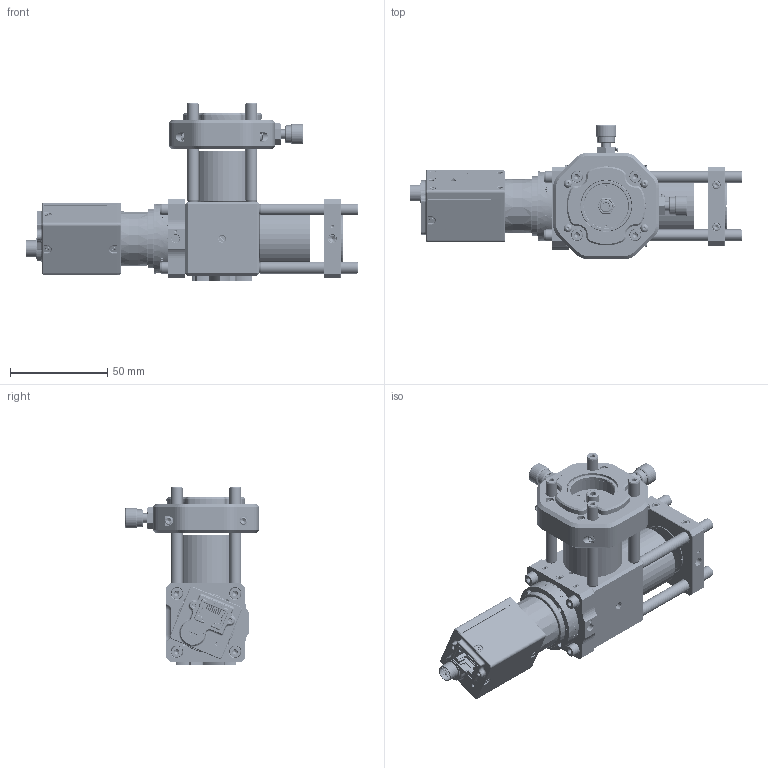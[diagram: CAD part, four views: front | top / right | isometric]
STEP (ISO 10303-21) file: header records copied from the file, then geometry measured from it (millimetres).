
FILE_DESCRIPTION (( 'STEP AP214' ), '1' );
FILE_NAME ('2023-27 - EMISSION TELESCOPE.STEP', '2024-11-19T10:14:12', ( '' ), ( '' ), 'SwSTEP 2.0', 'SolidWorks 2025', '' );
FILE_SCHEMA (( 'AUTOMOTIVE_DESIGN' ));
Length unit declared in the file: millimetre
Products named in the file (15): CXY1A; mer2_poe_user_a1.0.3.step; ER05; AC254-100-A; SM1CP2; SM1A39; CP33_M; CRM1_M; CCM1-BS013_M; ER2; SM1SMA; SM1L10; 2023-27 - EMISSION TELESCOPE; SM1RR; 2023-29 - 15mm pinhole
Assembly tree (25 placements, depth 2):
  2023-27 - EMISSION TELESCOPE
    CCM1-BS013_M
    CRM1_M
    SM1A39
    mer2_poe_user_a1.0.3.step
    ER05  x4
    SM1SMA
    CXY1A
    ER2  x8
    SM1L10  x2
    SM1CP2
    2023-29 - 15mm pinhole
    CP33_M
    SM1RR
    AC254-100-A
Bounding box: 170.64 x 68.96 x 91.69 mm (x, y, z)
Volume: 145574.5 mm3; surface area: 125254.6 mm2
Topology: 116 solids, 120 shells, 9611 faces, 25266 edges, 16203 vertices
Faces by surface type: plane 4273, cylinder 1979, bspline 1795, cone 1437, sphere 64, torus 63
Entity records: 377809 total; most frequent: CARTESIAN_POINT 170102, ORIENTED_EDGE 46842, DIRECTION 36631, EDGE_CURVE 23421, VERTEX_POINT 15192, VECTOR 12315, LINE 12315, AXIS2_PLACEMENT_3D 12158
